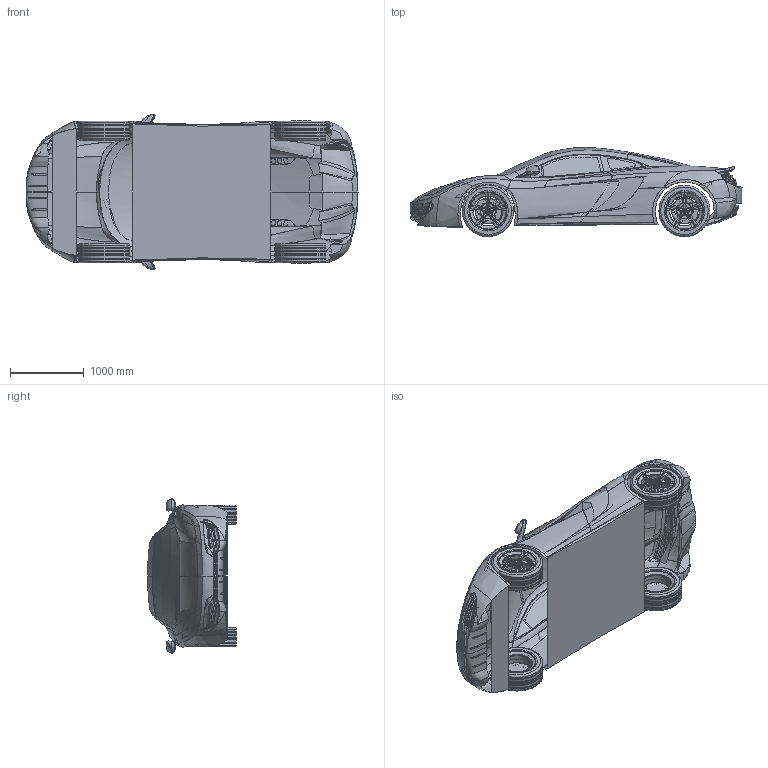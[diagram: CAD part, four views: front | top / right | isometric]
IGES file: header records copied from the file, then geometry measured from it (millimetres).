
Start section: SolidWorks IGES file using analytic representation for surfaces
Global section: file name: D:\design\McLaren MP4\McLaren MP4.IGS; native system: SolidWorks 2014; preprocessor: SolidWorks 2014; author: FIRAT; date: 150807.122604; units: millimetre
Bounding box: 4493.76 x 1203.45 x 2090.35 mm (x, y, z)
Surface area: 36362147.1 mm2 (no closed solid volume)
Topology: 0 solids, 0 shells, 1734 faces, 27069 edges, 26990 vertices
Faces by surface type: bspline 1302, revolution 432
